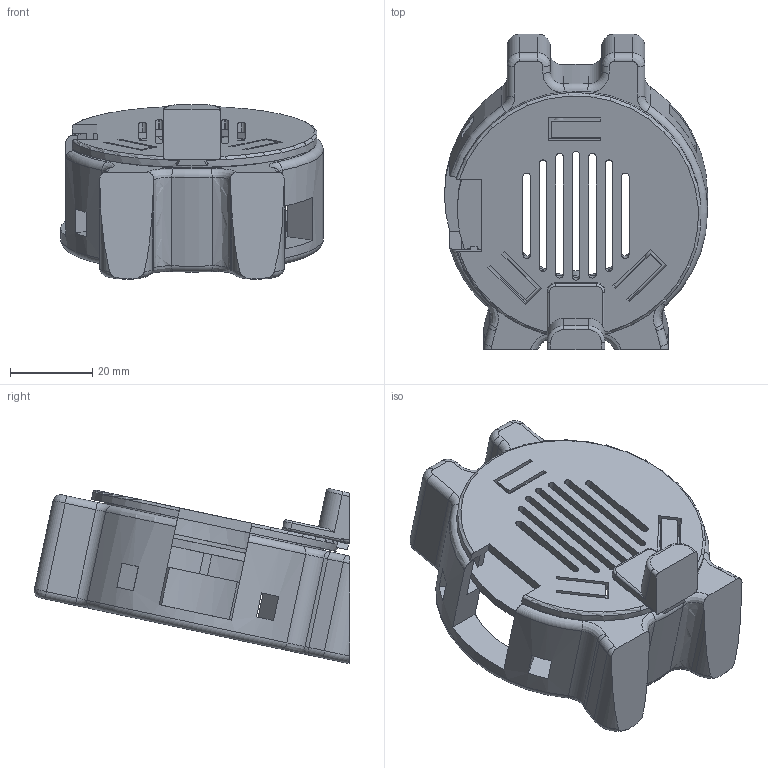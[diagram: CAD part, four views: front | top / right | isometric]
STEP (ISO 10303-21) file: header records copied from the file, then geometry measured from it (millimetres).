
FILE_DESCRIPTION(('Open CASCADE Model'),'2;1');
FILE_NAME('Open CASCADE Shape Model','2026-10-13T21:36:25',('Author'),( 'Open CASCADE'),'Open CASCADE STEP processor 7.9','Open CASCADE 7.9' ,'Unknown');
FILE_SCHEMA(('AUTOMOTIVE_DESIGN { 1 0 10303 214 1 1 1 1 }'));
Length unit declared in the file: millimetre
Products named in the file (5): Oisy desk figure, bare board; body; board-frame; back; rear-foot
Assembly tree (4 placements, depth 2):
  Oisy desk figure, bare board
    body
    board-frame
    back
    rear-foot
Bounding box: 64 x 76.8 x 42.42 mm (x, y, z)
Volume: 43554.1 mm3; surface area: 27609.7 mm2
Topology: 4 solids, 4 shells, 375 faces, 1004 edges, 645 vertices
Faces by surface type: plane 185, cylinder 116, torus 39, cone 15, bspline 12, revolution 8
Full cylindrical faces by diameter (mm): 3 x3, 3.9 x3, 6.3 x3, 34 x1, 46.5 x1, 49.46 x1
Entity records: 27572 total; most frequent: CARTESIAN_POINT 7301, DIRECTION 3870, LINE 2266, VECTOR 2266, ORIENTED_EDGE 2008, PCURVE 2008, DEFINITIONAL_REPRESENTATION 2008, EDGE_CURVE 1004
